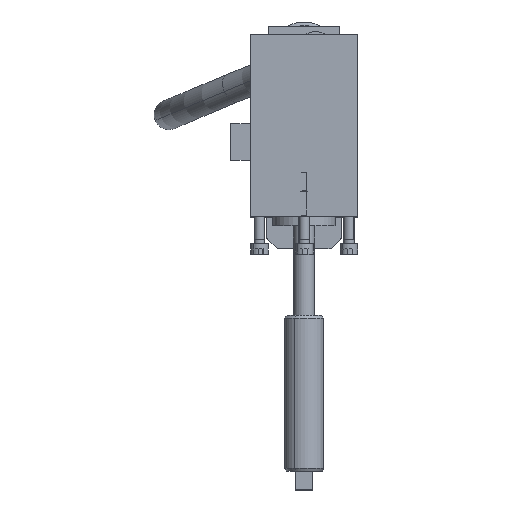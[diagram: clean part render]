
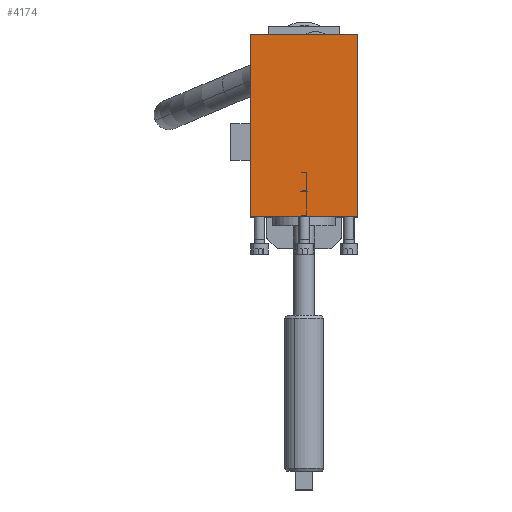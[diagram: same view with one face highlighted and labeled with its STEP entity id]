
A CAD part, top view. The second image highlights one B-rep face of the part: STEP entity #4174.
In plain terms, the highlighted planar face has unit normal (0, 0, 1).
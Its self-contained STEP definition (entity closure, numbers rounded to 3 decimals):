
#3942=CARTESIAN_POINT('Vertex',(-30.,60.,465.1)) ;
#3945=CARTESIAN_POINT('Line Origine',(0.,60.,465.1)) ;
#3949=CARTESIAN_POINT('Vertex',(30.,60.,465.1)) ;
#4107=CARTESIAN_POINT('Line Origine',(30.,9.,465.1)) ;
#4111=CARTESIAN_POINT('Vertex',(30.,-42.,465.1)) ;
#4151=CARTESIAN_POINT('Axis2P3D Location',(-30.,60.,465.1)) ;
#4156=CARTESIAN_POINT('Line Origine',(0.,-42.,465.1)) ;
#4160=CARTESIAN_POINT('Vertex',(-30.,-42.,465.1)) ;
#4163=CARTESIAN_POINT('Line Origine',(-30.,9.,465.1)) ;
#3946=DIRECTION('Vector Direction',(1.,0.,0.)) ;
#4108=DIRECTION('Vector Direction',(0.,-1.,0.)) ;
#4152=DIRECTION('Axis2P3D Direction',(0.,0.,-1.)) ;
#4153=DIRECTION('Axis2P3D XDirection',(1.,0.,0.)) ;
#4157=DIRECTION('Vector Direction',(1.,0.,0.)) ;
#4164=DIRECTION('Vector Direction',(0.,-1.,0.)) ;
#4154=AXIS2_PLACEMENT_3D('Plane Axis2P3D',#4151,#4152,#4153) ;
#4169=ORIENTED_EDGE('',*,*,#4162,.T.) ;
#4170=ORIENTED_EDGE('',*,*,#4113,.F.) ;
#4171=ORIENTED_EDGE('',*,*,#3951,.F.) ;
#4172=ORIENTED_EDGE('',*,*,#4167,.T.) ;
#3947=VECTOR('Line Direction',#3946,1.) ;
#4109=VECTOR('Line Direction',#4108,1.) ;
#4158=VECTOR('Line Direction',#4157,1.) ;
#4165=VECTOR('Line Direction',#4164,1.) ;
#4174=ADVANCED_FACE('',(#4173),#4155,.F.) ;
#3951=EDGE_CURVE('',#3943,#3950,#3948,.T.) ;
#4113=EDGE_CURVE('',#3950,#4112,#4110,.T.) ;
#4162=EDGE_CURVE('',#4161,#4112,#4159,.T.) ;
#4167=EDGE_CURVE('',#3943,#4161,#4166,.T.) ;
#4168=EDGE_LOOP('',(#4169,#4170,#4171,#4172)) ;
#4173=FACE_OUTER_BOUND('',#4168,.T.) ;
#3948=LINE('Line',#3945,#3947) ;
#4110=LINE('Line',#4107,#4109) ;
#4159=LINE('Line',#4156,#4158) ;
#4166=LINE('Line',#4163,#4165) ;
#4155=PLANE('Plane',#4154) ;
#3943=VERTEX_POINT('',#3942) ;
#3950=VERTEX_POINT('',#3949) ;
#4112=VERTEX_POINT('',#4111) ;
#4161=VERTEX_POINT('',#4160) ;
